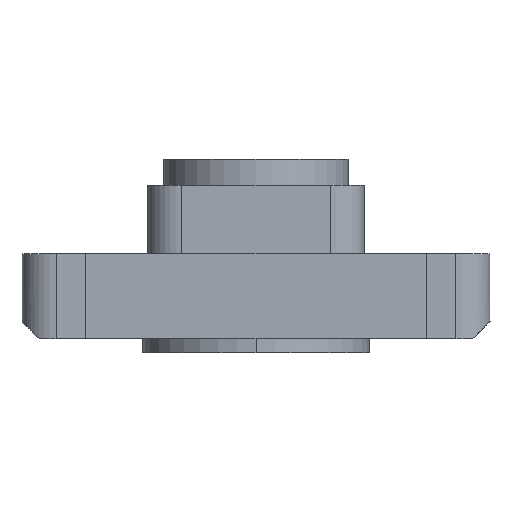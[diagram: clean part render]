
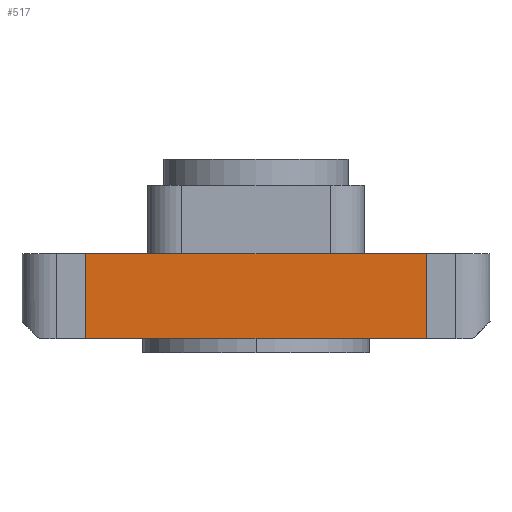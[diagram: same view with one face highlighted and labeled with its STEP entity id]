
A CAD part, front view. The second image highlights one B-rep face of the part: STEP entity #517.
In plain terms, the highlighted planar face has unit normal (0, -1, 0).
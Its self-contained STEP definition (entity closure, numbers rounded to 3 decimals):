
#517=ADVANCED_FACE('',(#772),#2493,.T.);
#772=FACE_OUTER_BOUND('',#1031,.F.);
#1031=EDGE_LOOP('',(#1362,#1363,#1364,#1365));
#1362=ORIENTED_EDGE('',*,*,#4859,.F.);
#1363=ORIENTED_EDGE('',*,*,#4978,.T.);
#1364=ORIENTED_EDGE('',*,*,#4896,.T.);
#1365=ORIENTED_EDGE('',*,*,#4977,.T.);
#2493=PLANE('',#6237);
#4209=LINE('',#8228,#4533);
#4235=LINE('',#8265,#4559);
#4258=LINE('',#8408,#4582);
#4259=LINE('',#8409,#4583);
#4533=VECTOR('',#6585,24.);
#4559=VECTOR('',#6633,24.);
#4582=VECTOR('',#6758,6.);
#4583=VECTOR('',#6759,6.);
#4859=EDGE_CURVE('',#5973,#5972,#4209,.T.);
#4896=EDGE_CURVE('',#5935,#5934,#4235,.T.);
#4977=EDGE_CURVE('',#5934,#5972,#4258,.T.);
#4978=EDGE_CURVE('',#5973,#5935,#4259,.T.);
#5934=VERTEX_POINT('',#8184);
#5935=VERTEX_POINT('',#8185);
#5972=VERTEX_POINT('',#8222);
#5973=VERTEX_POINT('',#8223);
#6237=AXIS2_PLACEMENT_3D('',#8738,#7203,#7204);
#6585=DIRECTION('',(-1.,0.,0.));
#6633=DIRECTION('',(-1.,0.,0.));
#6758=DIRECTION('',(0.,0.,1.));
#6759=DIRECTION('',(0.,0.,-1.));
#7203=DIRECTION('',(0.,-1.,0.));
#7204=DIRECTION('',(-1.,0.,0.));
#8184=CARTESIAN_POINT('',(-7.,193.8,310.8));
#8185=CARTESIAN_POINT('',(17.,193.8,310.8));
#8222=CARTESIAN_POINT('',(-7.,193.8,316.8));
#8223=CARTESIAN_POINT('',(17.,193.8,316.8));
#8228=CARTESIAN_POINT('',(17.,193.8,316.8));
#8265=CARTESIAN_POINT('',(17.,193.8,310.8));
#8408=CARTESIAN_POINT('',(-7.,193.8,310.8));
#8409=CARTESIAN_POINT('',(17.,193.8,316.8));
#8738=CARTESIAN_POINT('',(17.24,193.8,317.04));
